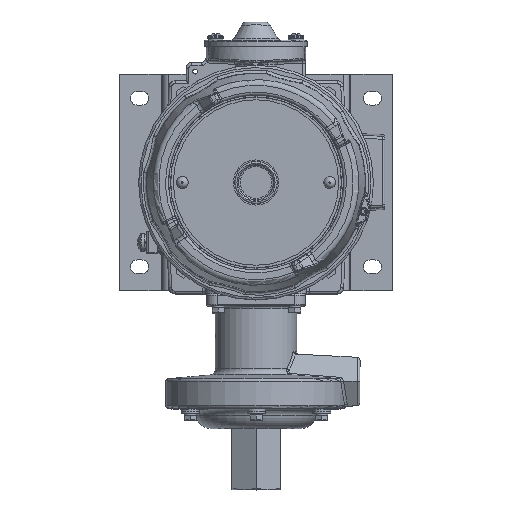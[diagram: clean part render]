
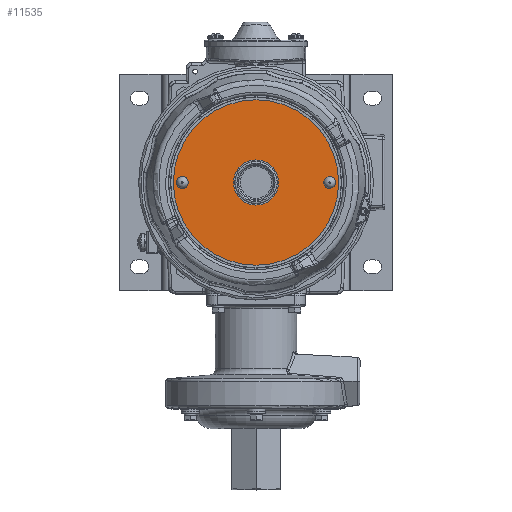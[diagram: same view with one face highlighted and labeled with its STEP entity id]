
A CAD part, top view. The second image highlights one B-rep face of the part: STEP entity #11535.
In plain terms, the highlighted planar face has unit normal (0, 0, 1).
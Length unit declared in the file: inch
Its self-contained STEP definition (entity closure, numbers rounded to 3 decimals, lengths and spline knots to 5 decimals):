
#1141 = EDGE_CURVE ( 'NONE', #81039, #81039, #14859, .T. ) ;
#2476 = AXIS2_PLACEMENT_3D ( 'NONE', #63163, #43455, #50007 ) ;
#3129 = AXIS2_PLACEMENT_3D ( 'NONE', #41863, #68579, #42278 ) ;
#4274 = DIRECTION ( 'NONE',  ( 1., 0., 0. ) ) ;
#4779 = VERTEX_POINT ( 'NONE', #77958 ) ;
#9486 = CIRCLE ( 'NONE', #59840, 1.71875 ) ;
#11535 = ADVANCED_FACE ( 'NONE', ( #74287, #14263, #69003, #28713 ), #55435, .T. ) ;
#11630 = ORIENTED_EDGE ( 'NONE', *, *, #15855, .F. ) ;
#11776 = ORIENTED_EDGE ( 'NONE', *, *, #76070, .F. ) ;
#13484 = CARTESIAN_POINT ( 'NONE',  ( -0.00025, 0., 4.817 ) ) ;
#14263 = FACE_OUTER_BOUND ( 'NONE', #83064, .T. ) ;
#14594 = ORIENTED_EDGE ( 'NONE', *, *, #15287, .T. ) ;
#14859 = CIRCLE ( 'NONE', #51241, 0.078 ) ;
#15287 = EDGE_CURVE ( 'NONE', #19108, #19108, #9486, .T. ) ;
#15855 = EDGE_CURVE ( 'NONE', #58535, #58535, #44475, .T. ) ;
#17400 = DIRECTION ( 'NONE',  ( 1., 0., 0. ) ) ;
#17894 = EDGE_LOOP ( 'NONE', ( #11776 ) ) ;
#19108 = VERTEX_POINT ( 'NONE', #52805 ) ;
#20058 = DIRECTION ( 'NONE',  ( 0., 0., 1. ) ) ;
#20989 = EDGE_LOOP ( 'NONE', ( #11630 ) ) ;
#22011 = ORIENTED_EDGE ( 'NONE', *, *, #1141, .F. ) ;
#22243 = DIRECTION ( 'NONE',  ( 0., 0., 1. ) ) ;
#28713 = FACE_BOUND ( 'NONE', #20989, .T. ) ;
#28850 = AXIS2_PLACEMENT_3D ( 'NONE', #77423, #22243, #17400 ) ;
#30282 = CIRCLE ( 'NONE', #28850, 0.46875 ) ;
#32665 = CARTESIAN_POINT ( 'NONE',  ( 1.609, 0., 4.817 ) ) ;
#37999 = EDGE_LOOP ( 'NONE', ( #22011 ) ) ;
#41863 = CARTESIAN_POINT ( 'NONE',  ( -0.00025, 0., 4.817 ) ) ;
#42278 = DIRECTION ( 'NONE',  ( 1., 0., 0. ) ) ;
#43455 = DIRECTION ( 'NONE',  ( 0., 0., 1. ) ) ;
#44475 = CIRCLE ( 'NONE', #2476, 0.078 ) ;
#46298 = CARTESIAN_POINT ( 'NONE',  ( -1.5315, 0., 4.817 ) ) ;
#46449 = CARTESIAN_POINT ( 'NONE',  ( -1.4535, 0., 4.817 ) ) ;
#50007 = DIRECTION ( 'NONE',  ( 1., 0., 0. ) ) ;
#51241 = AXIS2_PLACEMENT_3D ( 'NONE', #46298, #57721, #4274 ) ;
#52805 = CARTESIAN_POINT ( 'NONE',  ( 1.7185, 0., 4.817 ) ) ;
#55435 = PLANE ( 'NONE',  #3129 ) ;
#57721 = DIRECTION ( 'NONE',  ( 0., 0., 1. ) ) ;
#58535 = VERTEX_POINT ( 'NONE', #32665 ) ;
#59840 = AXIS2_PLACEMENT_3D ( 'NONE', #13484, #20058, #67370 ) ;
#63163 = CARTESIAN_POINT ( 'NONE',  ( 1.531, 0., 4.817 ) ) ;
#67370 = DIRECTION ( 'NONE',  ( 1., 0., 0. ) ) ;
#68579 = DIRECTION ( 'NONE',  ( 0., 0., 1. ) ) ;
#69003 = FACE_BOUND ( 'NONE', #37999, .T. ) ;
#74287 = FACE_BOUND ( 'NONE', #17894, .T. ) ;
#76070 = EDGE_CURVE ( 'NONE', #4779, #4779, #30282, .T. ) ;
#77423 = CARTESIAN_POINT ( 'NONE',  ( -0.00025, 0., 4.817 ) ) ;
#77958 = CARTESIAN_POINT ( 'NONE',  ( 0.4685, 0., 4.817 ) ) ;
#81039 = VERTEX_POINT ( 'NONE', #46449 ) ;
#83064 = EDGE_LOOP ( 'NONE', ( #14594 ) ) ;
